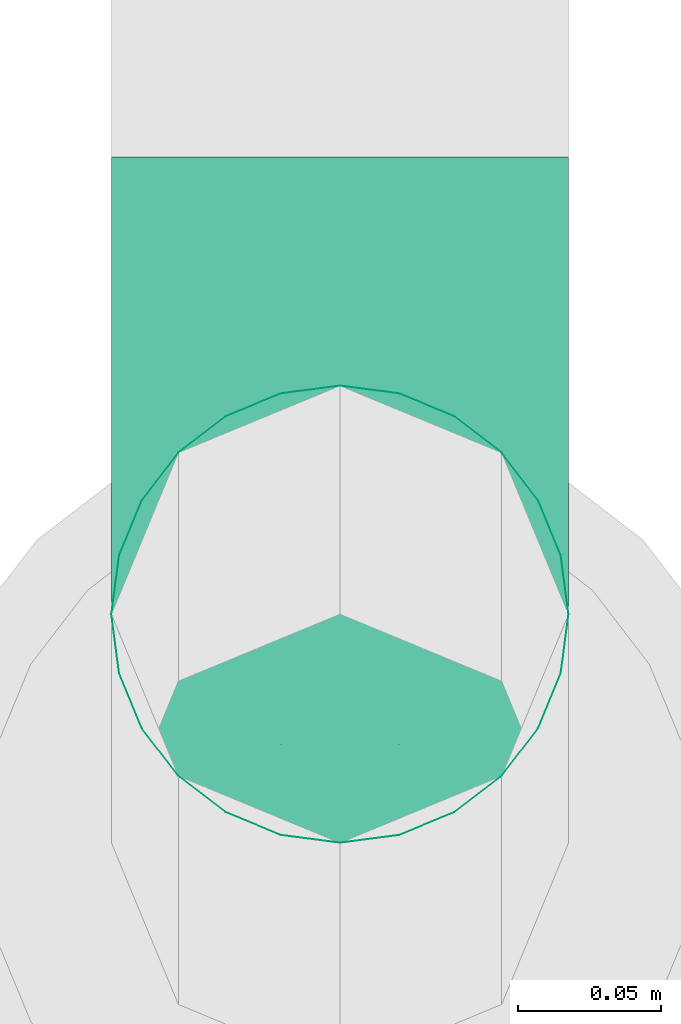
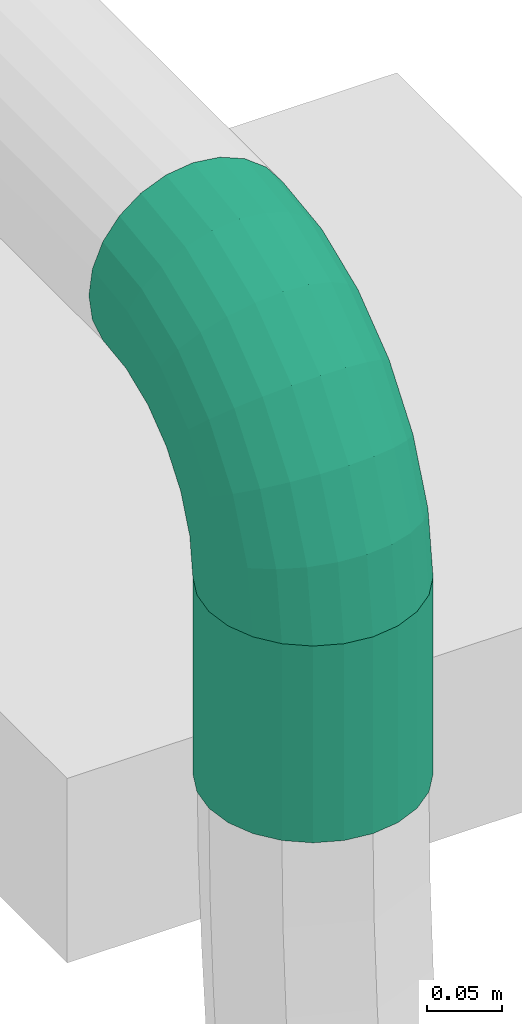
# One storey, part 58 of 374: 1 flow fitting, 1 flow segment.
"""IFC2X3 building model written with IfcOpenShell, lengths in metres."""

from ifc_helpers import new_model, si_unit, direction, origin, place, context, subcontext, project, spatial, open_shell, surface_model, source, transform, mapped, element, save


model = new_model("IFC2X3")

# Units and contexts
model_context = context("Model", 3, precision=1e-05, world=origin(), true_north=direction((-0.4480736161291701, 0.8939966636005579)))
body_context = subcontext(model_context, "Body", "Model", "MODEL_VIEW")
ifc_project = project(units=[si_unit("LENGTHUNIT", "METRE"), si_unit("AREAUNIT", "SQUARE_METRE"), si_unit("VOLUMEUNIT", "CUBIC_METRE"), si_unit("PLANEANGLEUNIT", "RADIAN"), si_unit("THERMODYNAMICTEMPERATUREUNIT", "KELVIN"), si_unit("MASSUNIT", "GRAM", prefix="KILO"), si_unit("TIMEUNIT", "SECOND")], contexts=[model_context])

# Site, building, storey
site_placement = place(None, origin())
site = spatial("IfcSite", under=ifc_project, at=site_placement, Name="Site 1", CompositionType="ELEMENT")
building_placement = place(site_placement, origin())
building = spatial("IfcBuilding", under=site, at=building_placement, Name="Undefined", CompositionType="ELEMENT")
storey_placement = place(building_placement, origin())
storey = spatial("IfcBuildingStorey", under=building, at=storey_placement, Name="Rez de chauss\x8ee", CompositionType="ELEMENT", Elevation=0.0)

# Flow fitting
shared_shape_1 = source(origin(), body_context, "Body", "SurfaceModel", [
    surface_model("IfcFaceBasedSurfaceModel", [(0.06265257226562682, -8.8817842e-16, 0.0), (0.062296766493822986, 0.02088115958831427, -7.105427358e-15), (0.0003558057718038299, 0.020881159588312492, 7.105427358e-15), (0.0, 0.0, 0.0), (-0.059474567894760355, 0.022956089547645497, -0.015896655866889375), (-0.06051773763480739, 0.002098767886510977, -0.01607928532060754), (-0.11311701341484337, 0.02696454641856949, -0.04660663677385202), (-0.11477645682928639, 0.006153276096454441, -0.04714207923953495), (-0.15691588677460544, 0.0326333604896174, -0.09003710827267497), (-0.15907851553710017, 0.01188721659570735, -0.09107150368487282), (-0.18788636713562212, 0.03957621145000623, -0.14322835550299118), (-0.1904048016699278, 0.01890983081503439, -0.14487384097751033), (-0.2039178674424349, 0.04731995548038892, -0.20255548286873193), (-0.20662048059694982, 0.026742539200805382, -0.20488255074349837), (0.061253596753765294, 0.04103889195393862, -0.0053597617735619), (0.0013989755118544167, 0.04103889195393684, -0.005359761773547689), (-0.05641614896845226, 0.04304393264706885, -0.02072097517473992), (-0.10825177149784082, 0.04691737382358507, -0.050396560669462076), (-0.15057538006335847, 0.05239524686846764, -0.09236417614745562), (-0.18050269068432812, 0.05910424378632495, -0.14376379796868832), (-0.19599420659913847, 0.06658715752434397, -0.20109262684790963), (0.05959415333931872, 0.05909948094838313, -0.01571402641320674), (0.003058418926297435, 0.05909948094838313, -0.01571402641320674), (-0.05155090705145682, 0.06099334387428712, -0.030223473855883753), (-0.10051228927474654, 0.06465200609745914, -0.058253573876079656), (-0.1404890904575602, 0.0698261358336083, -0.09789412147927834), (-0.16875695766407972, 0.0761631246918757, -0.14644367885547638), (-0.18338948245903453, 0.08323111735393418, -0.2005936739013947), (0.057431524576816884, 0.07383212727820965, -0.030357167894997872), (0.005221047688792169, 0.07383212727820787, -0.03035716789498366), (-0.0452104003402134, 0.07558110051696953, -0.04375657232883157), (-0.09042599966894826, 0.07895985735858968, -0.06964223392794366), (-0.12734438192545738, 0.08373814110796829, -0.10625008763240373), (-0.15344962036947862, 0.08959031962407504, -0.15108536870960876), (-0.16696268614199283, 0.0961175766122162, -0.20109262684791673), (0.054913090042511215, 0.0842328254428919, -0.048291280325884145), (0.007739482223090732, 0.08423282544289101, -0.04829128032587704), (-0.037826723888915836, 0.08581307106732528, -0.06039801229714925), (-0.07868026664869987, 0.08886587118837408, -0.08378642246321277), (-0.11203704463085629, 0.09318318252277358, -0.11686262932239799), (-0.13562384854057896, 0.09847078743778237, -0.1573725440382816), (-0.14783327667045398, 0.10436834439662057, -0.20255548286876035), (0.05221047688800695, 0.0895927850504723, -0.06829418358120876), (0.010442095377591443, 0.08959278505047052, -0.06829418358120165), (-0.029903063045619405, 0.09099196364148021, -0.07901370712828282), (-0.06607554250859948, 0.09369496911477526, -0.0997222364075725), (-0.0956102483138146, 0.0975175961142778, -0.12900851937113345), (-0.11649443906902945, 0.10219933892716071, -0.16487674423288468), (-0.12730489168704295, 0.1074211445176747, -0.2048825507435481), (0.04950786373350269, 0.08954673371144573, -0.08900271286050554), (0.013144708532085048, 0.08954673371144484, -0.08900271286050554), (-0.02197940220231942, 0.09076484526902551, -0.09833502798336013), (-0.05347081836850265, 0.09311805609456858, -0.11636367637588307), (-0.0791834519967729, 0.09644599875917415, -0.14186003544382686), (-0.09736502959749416, 0.10052187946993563, -0.17308657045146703), (-0.10677650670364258, 0.1050679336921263, -0.20791524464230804), (0.04698942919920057, 0.08409780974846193, -0.10900561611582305), (0.015663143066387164, 0.08409780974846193, -0.10900561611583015), (-0.014595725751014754, 0.08514719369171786, -0.11704525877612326), (-0.0417250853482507, 0.0871744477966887, -0.13257665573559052), (-0.06387611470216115, 0.09004141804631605, -0.15454136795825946), (-0.07953925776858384, 0.09355272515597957, -0.1814425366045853), (-0.08764709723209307, 0.09746907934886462, -0.21144689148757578), (0.04482680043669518, 0.0736173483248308, -0.12693972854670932), (0.017825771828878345, 0.0736173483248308, -0.12693972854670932), (-0.008255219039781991, 0.07452184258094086, -0.13386932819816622), (-0.03163879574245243, 0.0762691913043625, -0.14725628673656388), (-0.050731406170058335, 0.07874031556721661, -0.1661883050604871), (-0.06423192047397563, 0.08176681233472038, -0.18937519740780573), (-0.07122030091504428, 0.08514243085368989, -0.21523681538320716), (0.04316735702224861, 0.058819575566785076, -0.14158287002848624), (0.019485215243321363, 0.058819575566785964, -0.14158287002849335), (-0.0033899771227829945, 0.05961289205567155, -0.14766070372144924), (-0.02389931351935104, 0.06114546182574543, -0.15940217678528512), (-0.04064511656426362, 0.06331284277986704, -0.17600712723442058), (-0.052486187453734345, 0.06596733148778, -0.19634395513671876), (-0.05861557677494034, 0.06892802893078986, -0.2190267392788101), (0.04212418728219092, 0.040712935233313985, -0.15193713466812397), (0.020528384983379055, 0.040712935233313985, -0.15193713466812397), (-0.0003315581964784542, 0.041436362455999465, -0.15747952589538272), (-0.019034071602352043, 0.04283391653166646, -0.16818660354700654), (-0.03430460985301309, 0.04481035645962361, -0.1833286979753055), (-0.04510251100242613, 0.047230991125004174, -0.20187390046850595), (-0.05069191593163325, 0.04993085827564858, -0.22255838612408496), (0.04176838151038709, 0.02053136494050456, -0.15729689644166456), (0.020884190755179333, 0.02053136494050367, -0.15729689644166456), (0.0007116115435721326, 0.021230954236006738, -0.16265665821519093), (-0.017374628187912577, 0.022582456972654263, -0.17301092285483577), (-0.03214198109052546, 0.024493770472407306, -0.1876540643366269), (-0.042584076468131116, 0.026834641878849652, -0.20558817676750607), (-0.04798930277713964, 0.02944554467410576, -0.22559108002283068), (0.04212418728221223, -0.000349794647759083, -0.15729689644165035), (0.020528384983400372, -0.000349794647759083, -0.15729689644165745), (-0.0003315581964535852, 0.00037363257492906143, -0.1628392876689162), (-0.019034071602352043, 0.0017711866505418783, -0.17354636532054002), (-0.03430460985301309, 0.0037476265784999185, -0.18868845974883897), (-0.04510251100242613, 0.00616826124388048, -0.20723366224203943), (-0.05069191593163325, 0.008868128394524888, -0.22791814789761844), (0.04316735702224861, -0.020507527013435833, -0.15193713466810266), (0.019485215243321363, -0.020507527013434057, -0.15193713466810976), (-0.0033899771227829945, -0.019714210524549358, -0.15801496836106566), (-0.02389931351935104, -0.01818164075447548, -0.16975644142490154), (-0.04064511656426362, -0.01601425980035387, -0.186361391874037), (-0.052486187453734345, -0.013359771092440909, -0.20669821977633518), (-0.05861557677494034, -0.010399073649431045, -0.22938100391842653), (0.04482680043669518, -0.03856811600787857, -0.1415828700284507), (0.017825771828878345, -0.03856811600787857, -0.1415828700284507), (-0.008255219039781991, -0.03766362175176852, -0.1485124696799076), (-0.03163879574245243, -0.03591627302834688, -0.16189942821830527), (-0.050731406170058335, -0.03344514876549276, -0.1808314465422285), (-0.06423192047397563, -0.030418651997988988, -0.20401833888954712), (-0.07122030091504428, -0.027043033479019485, -0.22987995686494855), (0.04698942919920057, -0.05330076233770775, -0.12693972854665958), (0.015663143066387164, -0.05330076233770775, -0.12693972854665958), (-0.014595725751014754, -0.05225137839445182, -0.1349793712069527), (-0.0417250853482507, -0.05022412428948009, -0.15051076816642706), (-0.06387611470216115, -0.047357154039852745, -0.172475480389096), (-0.07953925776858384, -0.043845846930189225, -0.19937664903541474), (-0.08764709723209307, -0.03992949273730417, -0.2293810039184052), (0.04950786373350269, -0.06370146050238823, -0.10900561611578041), (0.013144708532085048, -0.06370146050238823, -0.10900561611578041), (-0.02197940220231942, -0.06248334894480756, -0.11833793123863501), (-0.05347081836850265, -0.06013013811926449, -0.13636657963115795), (-0.0791834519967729, -0.05680219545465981, -0.16186293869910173), (-0.09736502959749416, -0.05272631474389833, -0.1930894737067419), (-0.10677650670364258, -0.04818026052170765, -0.2279181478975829), (0.05221047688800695, -0.06906142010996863, -0.08900271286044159), (0.010442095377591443, -0.06906142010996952, -0.08900271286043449), (-0.029903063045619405, -0.06766224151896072, -0.09972223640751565), (-0.06607554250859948, -0.06495923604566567, -0.12043076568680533), (-0.0956102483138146, -0.06113660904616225, -0.14971704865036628), (-0.11649443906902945, -0.05645486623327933, -0.1855852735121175), (-0.12730489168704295, -0.05123306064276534, -0.22559108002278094), (0.054913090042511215, -0.06901536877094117, -0.06829418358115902), (0.007739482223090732, -0.06901536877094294, -0.06829418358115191), (-0.037826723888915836, -0.06743512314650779, -0.08040091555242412), (-0.07868026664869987, -0.06438232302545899, -0.10378932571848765), (-0.11203704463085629, -0.06006501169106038, -0.13686553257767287), (-0.13562384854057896, -0.0547774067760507, -0.17737544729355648), (-0.14783327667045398, -0.04887984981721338, -0.22255838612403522), (0.057431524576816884, -0.06356644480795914, -0.0482912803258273), (0.005221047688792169, -0.06356644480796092, -0.04829128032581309), (-0.0452104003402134, -0.061817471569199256, -0.0616906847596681), (-0.09042599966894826, -0.05843871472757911, -0.0875763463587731), (-0.12734438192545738, -0.05366043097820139, -0.12418420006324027), (-0.15344962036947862, -0.04780825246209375, -0.1690194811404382), (-0.16696268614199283, -0.041280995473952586, -0.21902673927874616), (0.05959415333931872, -0.05308598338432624, -0.030357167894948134), (0.003058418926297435, -0.05308598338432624, -0.030357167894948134), (-0.05155090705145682, -0.05119212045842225, -0.04486661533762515), (-0.10051228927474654, -0.04753345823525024, -0.07289671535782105), (-0.1404890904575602, -0.04235932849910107, -0.11253726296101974), (-0.16875695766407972, -0.03602233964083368, -0.16108682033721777), (-0.18338948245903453, -0.02895434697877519, -0.2152368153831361), (0.061253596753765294, -0.03828821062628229, -0.015714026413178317), (0.0013989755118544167, -0.03828821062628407, -0.015714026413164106), (-0.05641614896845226, -0.03628316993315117, -0.031075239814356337), (-0.10825177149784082, -0.03240972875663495, -0.06075082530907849), (-0.15057538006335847, -0.026931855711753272, -0.10271844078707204), (-0.18050269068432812, -0.02022285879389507, -0.15411806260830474), (-0.19599420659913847, -0.012739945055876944, -0.21144689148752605), (0.062296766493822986, -0.020181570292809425, -0.005359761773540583), (0.0003558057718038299, -0.020181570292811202, -0.0053597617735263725), (-0.059474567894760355, -0.018106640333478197, -0.021256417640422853), (-0.11311701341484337, -0.014098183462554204, -0.051966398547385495), (-0.15691588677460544, -0.00842936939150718, -0.09539687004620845), (-0.18788636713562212, -0.0014865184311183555, -0.14858811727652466), (-0.2039178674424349, 0.006257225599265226, -0.2079152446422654)], [open_shell([[[0, 1, 2, 3]], [[3, 2, 4, 5]], [[5, 4, 6, 7]], [[7, 6, 8, 9]], [[9, 8, 10, 11]], [[11, 10, 12, 13]], [[1, 14, 15, 2]], [[2, 15, 16, 4]], [[4, 16, 17, 6]], [[6, 17, 18, 8]], [[8, 18, 19, 10]], [[10, 19, 20, 12]], [[14, 21, 22, 15]], [[15, 22, 23, 16]], [[16, 23, 24, 17]], [[17, 24, 25, 18]], [[18, 25, 26, 19]], [[19, 26, 27, 20]], [[21, 28, 29, 22]], [[22, 29, 30, 23]], [[23, 30, 31, 24]], [[24, 31, 32, 25]], [[25, 32, 33, 26]], [[26, 33, 34, 27]], [[28, 35, 36, 29]], [[29, 36, 37, 30]], [[30, 37, 38, 31]], [[31, 38, 39, 32]], [[32, 39, 40, 33]], [[33, 40, 41, 34]], [[35, 42, 43, 36]], [[36, 43, 44, 37]], [[37, 44, 45, 38]], [[38, 45, 46, 39]], [[39, 46, 47, 40]], [[40, 47, 48, 41]], [[42, 49, 50, 43]], [[43, 50, 51, 44]], [[44, 51, 52, 45]], [[45, 52, 53, 46]], [[46, 53, 54, 47]], [[47, 54, 55, 48]], [[49, 56, 57, 50]], [[50, 57, 58, 51]], [[51, 58, 59, 52]], [[52, 59, 60, 53]], [[53, 60, 61, 54]], [[54, 61, 62, 55]], [[56, 63, 64, 57]], [[57, 64, 65, 58]], [[58, 65, 66, 59]], [[59, 66, 67, 60]], [[60, 67, 68, 61]], [[61, 68, 69, 62]], [[63, 70, 71, 64]], [[64, 71, 72, 65]], [[65, 72, 73, 66]], [[66, 73, 74, 67]], [[67, 74, 75, 68]], [[68, 75, 76, 69]], [[70, 77, 78, 71]], [[71, 78, 79, 72]], [[72, 79, 80, 73]], [[73, 80, 81, 74]], [[74, 81, 82, 75]], [[75, 82, 83, 76]], [[77, 84, 85, 78]], [[78, 85, 86, 79]], [[79, 86, 87, 80]], [[80, 87, 88, 81]], [[81, 88, 89, 82]], [[82, 89, 90, 83]], [[84, 91, 92, 85]], [[85, 92, 93, 86]], [[86, 93, 94, 87]], [[87, 94, 95, 88]], [[88, 95, 96, 89]], [[89, 96, 97, 90]], [[91, 98, 99, 92]], [[92, 99, 100, 93]], [[93, 100, 101, 94]], [[94, 101, 102, 95]], [[95, 102, 103, 96]], [[96, 103, 104, 97]], [[98, 105, 106, 99]], [[99, 106, 107, 100]], [[100, 107, 108, 101]], [[101, 108, 109, 102]], [[102, 109, 110, 103]], [[103, 110, 111, 104]], [[105, 112, 113, 106]], [[106, 113, 114, 107]], [[107, 114, 115, 108]], [[108, 115, 116, 109]], [[109, 116, 117, 110]], [[110, 117, 118, 111]], [[112, 119, 120, 113]], [[113, 120, 121, 114]], [[114, 121, 122, 115]], [[115, 122, 123, 116]], [[116, 123, 124, 117]], [[117, 124, 125, 118]], [[119, 126, 127, 120]], [[120, 127, 128, 121]], [[121, 128, 129, 122]], [[122, 129, 130, 123]], [[123, 130, 131, 124]], [[124, 131, 132, 125]], [[126, 133, 134, 127]], [[127, 134, 135, 128]], [[128, 135, 136, 129]], [[129, 136, 137, 130]], [[130, 137, 138, 131]], [[131, 138, 139, 132]], [[133, 140, 141, 134]], [[134, 141, 142, 135]], [[135, 142, 143, 136]], [[136, 143, 144, 137]], [[137, 144, 145, 138]], [[138, 145, 146, 139]], [[140, 147, 148, 141]], [[141, 148, 149, 142]], [[142, 149, 150, 143]], [[143, 150, 151, 144]], [[144, 151, 152, 145]], [[145, 152, 153, 146]], [[147, 154, 155, 148]], [[148, 155, 156, 149]], [[149, 156, 157, 150]], [[150, 157, 158, 151]], [[151, 158, 159, 152]], [[152, 159, 160, 153]], [[154, 161, 162, 155]], [[155, 162, 163, 156]], [[156, 163, 164, 157]], [[157, 164, 165, 158]], [[158, 165, 166, 159]], [[159, 166, 167, 160]], [[161, 0, 3, 162]], [[162, 3, 5, 163]], [[163, 5, 7, 164]], [[164, 7, 9, 165]], [[165, 9, 11, 166]], [[166, 11, 13, 167]]])]),
])
flow_fitting_placement = place(storey_placement, origin())
element("IfcFlowFitting", 1, at=flow_fitting_placement, inside=storey, Name="Coude", ObjectType="Coude", context=body_context, shape_type="MappedRepresentation", body=[
    mapped(shared_shape_1, transform((38.29000102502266, 1.8881775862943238, 3.702116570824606), x_axis=(9.56658874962e-13, -0.13052619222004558, -0.9914448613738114), y_axis=(0.9915887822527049, 0.12832103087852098, -0.01689378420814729), z_axis=(0.12942830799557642, -0.983105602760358, 0.1294283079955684))),
])

# Flow segment
shared_shape_2 = source(origin(), body_context, "Body", "SurfaceModel", [
    surface_model("IfcFaceBasedSurfaceModel", [(0.0, 0.020884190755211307, 0.0), (0.0, 0.0, 0.0), (0.16000000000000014, 0.0, -4.4408921e-16), (0.16000000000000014, 0.0208841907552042, -4.4408921e-16), (0.0, -0.020172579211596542, -0.005405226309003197), (0.16000000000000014, -0.020172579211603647, -0.005405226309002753), (0.0, -0.03825881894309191, -0.015847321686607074), (0.16000000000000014, -0.03825881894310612, -0.015847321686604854), (0.0, -0.05302617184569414, -0.0306146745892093), (0.16000000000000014, -0.05302617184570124, -0.03061467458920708), (0.0, -0.06346826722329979, -0.04870091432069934), (0.16000000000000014, -0.0634682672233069, -0.04870091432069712), (0.0, -0.06887349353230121, -0.06887349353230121), (0.16000000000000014, -0.06887349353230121, -0.06887349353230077), (0.0, -0.06887349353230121, -0.08975768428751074), (0.16000000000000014, -0.06887349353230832, -0.08975768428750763), (0.0, -0.06346826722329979, -0.10993026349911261), (0.16000000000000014, -0.0634682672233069, -0.10993026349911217), (0.0, -0.05302617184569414, -0.12801650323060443), (0.16000000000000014, -0.05302617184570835, -0.1280165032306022), (0.0, -0.038258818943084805, -0.14278385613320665), (0.16000000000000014, -0.03825881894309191, -0.14278385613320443), (0.0, -0.020172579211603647, -0.15322595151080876), (0.16000000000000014, -0.020172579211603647, -0.1532259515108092), (0.0, 7.105427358e-15, -0.15863117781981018), (0.16000000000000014, -7.105427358e-15, -0.15863117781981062), (0.0, 0.020884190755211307, -0.15863117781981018), (0.16000000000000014, 0.0208841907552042, -0.15863117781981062), (0.0, 0.04105676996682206, -0.15322595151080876), (0.16000000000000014, 0.04105676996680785, -0.1532259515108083), (0.0, 0.05914300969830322, -0.1427838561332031), (0.16000000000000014, 0.05914300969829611, -0.14278385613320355), (0.0, 0.07391036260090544, -0.12801650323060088), (0.16000000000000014, 0.07391036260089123, -0.1280165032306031), (0.0, 0.0843524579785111, -0.10993026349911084), (0.16000000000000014, 0.08435245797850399, -0.10993026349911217), (0.0, 0.08975768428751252, -0.08975768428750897), (0.16000000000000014, 0.08975768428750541, -0.08975768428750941), (0.0, 0.08975768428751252, -0.06887349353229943), (0.16000000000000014, 0.08975768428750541, -0.06887349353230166), (0.0, 0.0843524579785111, -0.048700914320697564), (0.16000000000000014, 0.08435245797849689, -0.04870091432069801), (0.0, 0.07391036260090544, -0.030614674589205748), (0.16000000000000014, 0.07391036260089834, -0.03061467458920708), (0.0, 0.05914300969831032, -0.015847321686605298), (0.16000000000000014, 0.05914300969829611, -0.01584732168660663), (0.0, 0.04105676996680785, -0.005405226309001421), (0.16000000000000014, 0.04105676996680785, -0.005405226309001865)], [open_shell([[[0, 1, 2, 3]], [[1, 4, 5, 2]], [[4, 6, 7, 5]], [[6, 8, 9, 7]], [[8, 10, 11, 9]], [[10, 12, 13, 11]], [[12, 14, 15, 13]], [[14, 16, 17, 15]], [[16, 18, 19, 17]], [[18, 20, 21, 19]], [[20, 22, 23, 21]], [[22, 24, 25, 23]], [[24, 26, 27, 25]], [[26, 28, 29, 27]], [[28, 30, 31, 29]], [[30, 32, 33, 31]], [[32, 34, 35, 33]], [[34, 36, 37, 35]], [[36, 38, 39, 37]], [[38, 40, 41, 39]], [[40, 42, 43, 41]], [[42, 44, 45, 43]], [[44, 46, 47, 45]], [[46, 0, 3, 47]]])]),
])
flow_segment_placement = place(storey_placement, origin())
element("IfcFlowSegment", 2, at=flow_segment_placement, inside=storey, Name="Tube", ObjectType="Tube", context=body_context, shape_type="MappedRepresentation", body=[
    mapped(shared_shape_2, transform((38.26929550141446, 2.0372738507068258, 3.4800000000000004), x_axis=(0.0, 0.0, 1.0), y_axis=(0.9914448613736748, 0.13052619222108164, 0.0), z_axis=(-0.13052619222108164, 0.9914448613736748, 0.0))),
])

save(model, "model.ifc")
